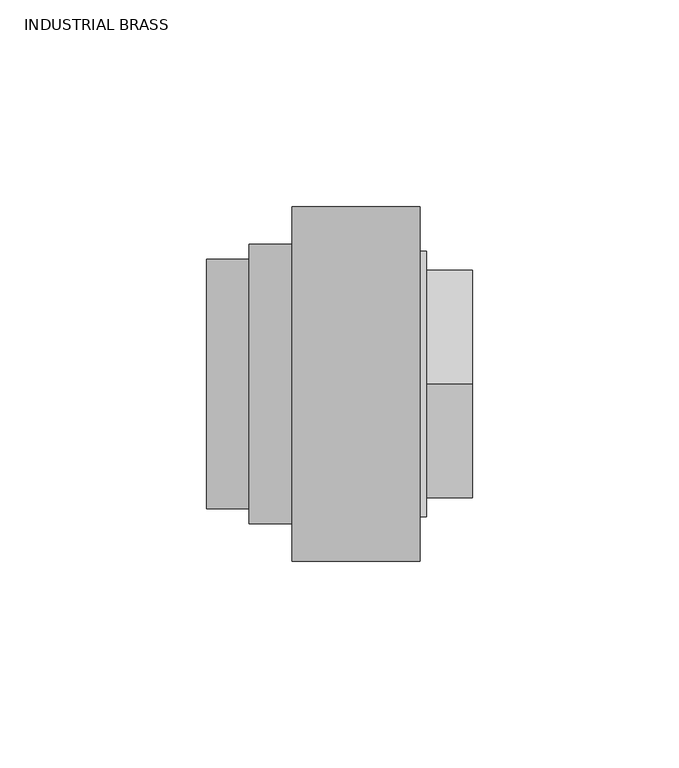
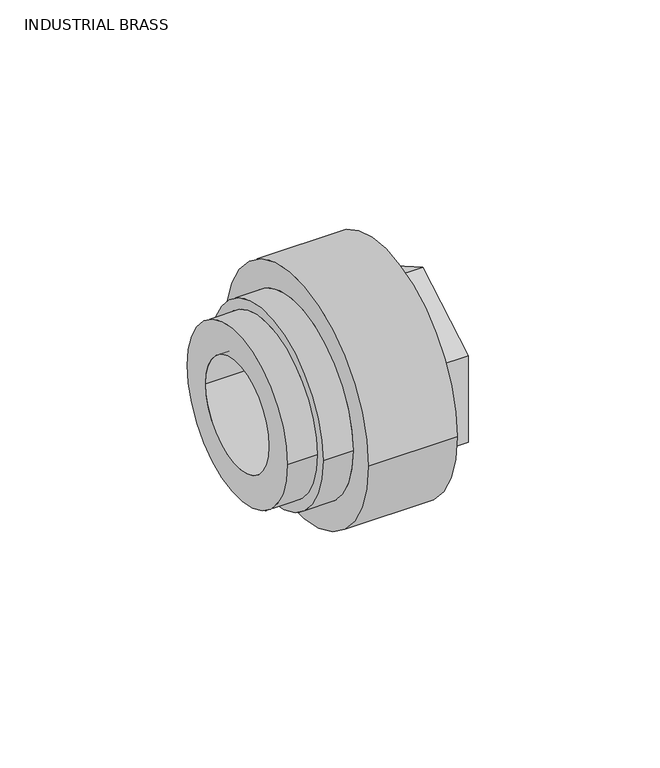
"""IFC4 building model written with IfcOpenShell, lengths in millimetres: pipe fitting geometry, Aquatherm - Flow Meter Well : INDUSTRIAL BRASS."""

from ifc_helpers import new_model, si_unit, frame, origin, place, context, project, spatial, polyline, circle_curve, source, transform, mapped, element, save
from ifc_brep_helpers import plane_surface, cylinder_surface, revolved_surface, advanced_brep


def industrial_brass_95618bbd(model_context):
    return source(origin(), model_context, "Body", "AdvancedBrep", [
        advanced_brep(
        [(31.877, 22.225, 0.0), (31.877, -22.225, 0.0), (51.5223125, -22.225, 0.0), (51.5223125, 22.225, 0.0), (31.877, 23.01875, 0.0), (31.877, -23.01875, 0.0), (28.702, 23.01875, 0.0), (28.702, -23.01875, 0.0), (28.702, 19.05, 0.0), (28.702, -19.05, 0.0), (25.527, 19.05, 0.0), (25.527, -19.05, 0.0), (25.527, 33.782, 0.0), (25.527, -33.782, 0.0), (41.402, 33.782, 0.0), (41.402, -33.782, 0.0), (54.102, 23.01875, 0.0), (54.102, -23.01875, 0.0), (54.102, -27.559, 0.0), (54.102, -27.559, -15.9111961), (54.102, 0.0, -31.8223921), (54.102, 27.559, -15.9111961), (54.102, 27.559, 0.0), (54.102, 27.559, 15.9111961), (54.102, 0.0, 31.8223921), (54.102, -27.559, 15.9111961), (41.402, 32.131, 0.0), (41.402, -32.131, 0.0), (42.9895, 32.131, 0.0), (42.9895, -32.131, 0.0), (42.9895, 0.0, -31.8223921), (42.9895, -27.559, -15.9111961), (42.9895, -27.559, 15.9111961), (42.9895, 0.0, 31.8223921), (42.9895, 27.559, 15.9111961), (42.9895, 27.559, -15.9111961)],
        [
            (0, 1, circle_curve(frame((31.877, 0.0, 0.0), z_axis=(-1.0, 0.0, 0.0), x_axis=(0.0, -1.0, 0.0)), 22.225)),
            (1, 2),
            (2, 3, circle_curve(frame((51.5223125, 0.0, 0.0), z_axis=(1.0, 0.0, 0.0), x_axis=(0.0, -1.0, 0.0)), 22.225)),
            (3, 0),
            (1, 0, circle_curve(frame((31.877, 0.0, 0.0), z_axis=(-1.0, 0.0, 0.0), x_axis=(0.0, -1.0, 0.0)), 22.225)),
            (3, 2, circle_curve(frame((51.5223125, 0.0, 0.0), z_axis=(1.0, 0.0, 0.0), x_axis=(0.0, -1.0, 0.0)), 22.225)),
            (0, 4),
            (4, 5, circle_curve(frame((31.877, 0.0, 0.0), z_axis=(-1.0, 0.0, 0.0), x_axis=(0.0, -1.0, 0.0)), 23.01875)),
            (5, 1),
            (5, 4, circle_curve(frame((31.877, 0.0, 0.0), z_axis=(-1.0, 0.0, 0.0), x_axis=(0.0, -1.0, 0.0)), 23.01875)),
            (4, 6),
            (6, 7, circle_curve(frame((28.702, 0.0, 0.0), z_axis=(-1.0, 0.0, 0.0), x_axis=(0.0, -1.0, 0.0)), 23.01875)),
            (7, 5),
            (7, 6, circle_curve(frame((28.702, 0.0, 0.0), z_axis=(-1.0, 0.0, 0.0), x_axis=(0.0, -1.0, 0.0)), 23.01875)),
            (6, 8),
            (8, 9, circle_curve(frame((28.702, 0.0, 0.0), z_axis=(-1.0, 0.0, 0.0), x_axis=(0.0, -1.0, 0.0)), 19.05)),
            (9, 7),
            (9, 8, circle_curve(frame((28.702, 0.0, 0.0), z_axis=(-1.0, 0.0, 0.0), x_axis=(0.0, -1.0, 0.0)), 19.05)),
            (8, 10),
            (10, 11, circle_curve(frame((25.527, 0.0, 0.0), z_axis=(-1.0, 0.0, 0.0), x_axis=(0.0, -1.0, 0.0)), 19.05)),
            (11, 9),
            (11, 10, circle_curve(frame((25.527, 0.0, 0.0), z_axis=(-1.0, 0.0, 0.0), x_axis=(0.0, -1.0, 0.0)), 19.05)),
            (10, 12),
            (12, 13, circle_curve(frame((25.527, 0.0, 0.0), z_axis=(-1.0, 0.0, 0.0), x_axis=(0.0, -1.0, 0.0)), 33.782)),
            (13, 11),
            (13, 12, circle_curve(frame((25.527, 0.0, 0.0), z_axis=(-1.0, 0.0, 0.0), x_axis=(0.0, -1.0, 0.0)), 33.782)),
            (12, 14),
            (14, 15, circle_curve(frame((41.402, 0.0, 0.0), z_axis=(-1.0, 0.0, 0.0), x_axis=(0.0, -1.0, 0.0)), 33.782)),
            (15, 13),
            (15, 14, circle_curve(frame((41.402, 0.0, 0.0), z_axis=(-1.0, 0.0, 0.0), x_axis=(0.0, -1.0, 0.0)), 33.782)),
            (16, 17, circle_curve(frame((54.102, 0.0, 0.0), z_axis=(-1.0, 0.0, 0.0), x_axis=(0.0, -1.0, 0.0)), 23.01875)),
            (17, 18),
            (18, 19),
            (19, 20),
            (20, 21),
            (21, 22),
            (22, 16),
            (17, 16, circle_curve(frame((54.102, 0.0, 0.0), z_axis=(-1.0, 0.0, 0.0), x_axis=(0.0, -1.0, 0.0)), 23.01875)),
            (22, 23),
            (23, 24),
            (24, 25),
            (25, 18),
            (2, 17),
            (16, 3),
            (14, 26),
            (26, 27, circle_curve(frame((41.402, 0.0, 0.0), z_axis=(-1.0, 0.0, 0.0), x_axis=(0.0, -1.0, 0.0)), 32.131)),
            (27, 15),
            (27, 26, circle_curve(frame((41.402, 0.0, 0.0), z_axis=(-1.0, 0.0, 0.0), x_axis=(0.0, -1.0, 0.0)), 32.131)),
            (26, 28),
            (28, 29, circle_curve(frame((42.9895, 0.0, 0.0), z_axis=(-1.0, 0.0, 0.0), x_axis=(0.0, -1.0, 0.0)), 32.131)),
            (29, 27),
            (29, 28, circle_curve(frame((42.9895, 0.0, 0.0), z_axis=(-1.0, 0.0, 0.0), x_axis=(0.0, -1.0, 0.0)), 32.131)),
            (30, 31),
            (31, 32),
            (32, 33),
            (33, 34),
            (34, 35),
            (35, 30),
            (35, 21),
            (20, 30),
            (34, 23),
            (33, 24),
            (32, 25),
            (31, 19),
        ],
        [
            revolved_surface(polyline([(51.5223125, -22.225, 0.0), (31.877, -22.225, 0.0)]), (55.9352251, 0.0, 0.0), (1.0, 0.0, 0.0)),
            plane_surface(frame((31.877, 0.0, 0.0), z_axis=(-1.0, 0.0, 0.0), x_axis=(0.0, -1.0, 0.0))),
            revolved_surface(polyline([(31.877, -23.01875, 0.0), (28.702, -23.01875, 0.0)]), (55.9352251, 0.0, 0.0), (1.0, 0.0, 0.0)),
            plane_surface(frame((28.702, 0.0, 0.0), z_axis=(1.0, 0.0, 0.0), x_axis=(0.0, -1.0, 0.0))),
            revolved_surface(polyline([(28.702, -19.05, 0.0), (25.527, -19.05, 0.0)]), (55.9352251, 0.0, 0.0), (1.0, 0.0, 0.0)),
            plane_surface(frame((25.527, 0.0, 0.0), z_axis=(-1.0, 0.0, 0.0), x_axis=(0.0, -1.0, 0.0))),
            cylinder_surface(frame((55.9352251, 0.0, 0.0), z_axis=(1.0, 0.0, 0.0), x_axis=(0.0, -1.0, 0.0)), 33.782),
            plane_surface(frame((54.102, 0.0, 0.0), z_axis=(1.0, 0.0, 0.0), x_axis=(0.0, -1.0, 0.0))),
            revolved_surface(polyline([(54.102, -23.01875, 0.0), (51.5223125, -22.225, 0.0)]), (55.9352251, 0.0, 0.0), (1.0, 0.0, 0.0)),
            plane_surface(frame((41.402, 0.0, 0.0), z_axis=(1.0, 0.0, 0.0), x_axis=(0.0, -1.0, 0.0))),
            cylinder_surface(frame((55.9352251, 0.0, 0.0), z_axis=(1.0, 0.0, 0.0), x_axis=(0.0, -1.0, 0.0)), 32.131),
            plane_surface(frame((42.9895, 27.559, -15.9111961), z_axis=(1.0, 0.0, 0.0), x_axis=(0.0, 0.8660254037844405, 0.4999999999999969))),
            plane_surface(frame((42.9895, 0.0, -31.8223921), z_axis=(0.0, 0.4999999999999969, -0.8660254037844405), x_axis=(1.0, 0.0, 0.0))),
            plane_surface(frame((42.9895, 27.559, -15.9111961), z_axis=(0.0, 1.0, 0.0), x_axis=(1.0, 0.0, 0.0))),
            plane_surface(frame((42.9895, 27.559, 15.9111961), z_axis=(0.0, 0.5000000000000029, 0.866025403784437), x_axis=(1.0, 0.0, 0.0))),
            plane_surface(frame((42.9895, 0.0, 31.8223921), z_axis=(0.0, -0.49999999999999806, 0.8660254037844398), x_axis=(1.0, 0.0, 0.0))),
            plane_surface(frame((42.9895, -27.559, 15.9111961), z_axis=(0.0, -1.0, 0.0), x_axis=(1.0, 0.0, 0.0))),
            plane_surface(frame((42.9895, -27.559, -15.9111961), z_axis=(0.0, -0.5000000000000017, -0.8660254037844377), x_axis=(1.0, 0.0, 0.0))),
        ],
        [
            (0, [[1, 2, 3, 4]]),
            (0, [[-2, 5, -4, 6]]),
            (1, [[-1, 7, 8, 9]]),
            (1, [[-5, -9, 10, -7]]),
            (2, [[-8, 11, 12, 13]]),
            (2, [[-10, -13, 14, -11]]),
            (3, [[-12, 15, 16, 17]]),
            (3, [[-14, -17, 18, -15]]),
            (4, [[-16, 19, 20, 21]]),
            (4, [[-18, -21, 22, -19]]),
            (5, [[-20, 23, 24, 25]]),
            (5, [[-22, -25, 26, -23]]),
            (6, [[-24, 27, 28, 29]]),
            (6, [[-26, -29, 30, -27]]),
            (7, [[31, 32, 33, 34, 35, 36, 37]]),
            (7, [[38, -37, 39, 40, 41, 42, -32]]),
            (8, [[-3, 43, -31, 44]]),
            (8, [[-6, -44, -38, -43]]),
            (9, [[-28, 45, 46, 47]]),
            (9, [[-30, -47, 48, -45]]),
            (10, [[-46, 49, 50, 51]]),
            (10, [[-48, -51, 52, -49]]),
            (11, [[-50, -52], [53, 54, 55, 56, 57, 58]]),
            (12, [[-58, 59, -35, 60]]),
            (13, [[-57, 61, -39, -36, -59]]),
            (14, [[-56, 62, -40, -61]]),
            (15, [[-55, 63, -41, -62]]),
            (16, [[-54, 64, -33, -42, -63]]),
            (17, [[-53, -60, -34, -64]]),
        ],
    ),
        advanced_brep(
        [(-10.2972973, 30.1625, 0.0), (-10.2972973, -30.1625, 0.0), (-10.2972973, 19.05, 0.0), (-10.2972973, -19.05, 0.0), (25.527, 33.782, 0.0), (25.527, -33.782, 0.0), (25.527, 19.05, 0.0), (25.527, -19.05, 0.0), (0.0, 30.1625, 0.0), (0.0, -30.1625, 0.0), (41.402, 42.926, 0.0), (41.402, -42.926, 0.0), (41.402, 33.782, 0.0), (41.402, -33.782, 0.0), (10.414, 42.926, 0.0), (10.414, -42.926, 0.0), (10.414, -33.782, 0.0), (10.414, 33.782, 0.0), (0.0, 33.782, 0.0), (0.0, -33.782, 0.0)],
        [
            (0, 1, circle_curve(frame((-10.2972973, 0.0, 0.0), z_axis=(-1.0, 0.0, 0.0), x_axis=(0.0, -1.0, 0.0)), 30.1625)),
            (1, 0, circle_curve(frame((-10.2972973, 0.0, 0.0), z_axis=(-1.0, 0.0, 0.0), x_axis=(0.0, -1.0, 0.0)), 30.1625)),
            (2, 3, circle_curve(frame((-10.2972973, 0.0, 0.0), z_axis=(1.0, 0.0, 0.0), x_axis=(0.0, -1.0, 0.0)), 19.05)),
            (3, 2, circle_curve(frame((-10.2972973, 0.0, 0.0), z_axis=(1.0, 0.0, 0.0), x_axis=(0.0, -1.0, 0.0)), 19.05)),
            (4, 5, circle_curve(frame((25.527, 0.0, 0.0), z_axis=(1.0, 0.0, 0.0), x_axis=(0.0, -1.0, 0.0)), 33.782)),
            (5, 4, circle_curve(frame((25.527, 0.0, 0.0), z_axis=(1.0, 0.0, 0.0), x_axis=(0.0, -1.0, 0.0)), 33.782)),
            (6, 7, circle_curve(frame((25.527, 0.0, 0.0), z_axis=(-1.0, 0.0, 0.0), x_axis=(0.0, -1.0, 0.0)), 19.05)),
            (7, 6, circle_curve(frame((25.527, 0.0, 0.0), z_axis=(-1.0, 0.0, 0.0), x_axis=(0.0, -1.0, 0.0)), 19.05)),
            (2, 6),
            (7, 3),
            (0, 8),
            (8, 9, circle_curve(frame((0.0, 0.0, 0.0), z_axis=(-1.0, 0.0, 0.0), x_axis=(0.0, -1.0, 0.0)), 30.1625)),
            (9, 1),
            (9, 8, circle_curve(frame((0.0, 0.0, 0.0), z_axis=(-1.0, 0.0, 0.0), x_axis=(0.0, -1.0, 0.0)), 30.1625)),
            (10, 11, circle_curve(frame((41.402, 0.0, 0.0), z_axis=(1.0, 0.0, 0.0), x_axis=(0.0, -1.0, 0.0)), 42.926)),
            (11, 10, circle_curve(frame((41.402, 0.0, 0.0), z_axis=(1.0, 0.0, 0.0), x_axis=(0.0, -1.0, 0.0)), 42.926)),
            (12, 13, circle_curve(frame((41.402, 0.0, 0.0), z_axis=(-1.0, 0.0, 0.0), x_axis=(0.0, -1.0, 0.0)), 33.782)),
            (13, 12, circle_curve(frame((41.402, 0.0, 0.0), z_axis=(-1.0, 0.0, 0.0), x_axis=(0.0, -1.0, 0.0)), 33.782)),
            (14, 15, circle_curve(frame((10.414, 0.0, 0.0), z_axis=(-1.0, 0.0, 0.0), x_axis=(0.0, -1.0, 0.0)), 42.926)),
            (15, 14, circle_curve(frame((10.414, 0.0, 0.0), z_axis=(-1.0, 0.0, 0.0), x_axis=(0.0, -1.0, 0.0)), 42.926)),
            (16, 17, circle_curve(frame((10.414, 0.0, 0.0), z_axis=(1.0, 0.0, 0.0), x_axis=(0.0, -1.0, 0.0)), 33.782)),
            (17, 16, circle_curve(frame((10.414, 0.0, 0.0), z_axis=(1.0, 0.0, 0.0), x_axis=(0.0, -1.0, 0.0)), 33.782)),
            (13, 5),
            (4, 12),
            (11, 15),
            (14, 10),
            (18, 19, circle_curve(frame((0.0, 0.0, 0.0), z_axis=(-1.0, 0.0, 0.0), x_axis=(0.0, -1.0, 0.0)), 33.782)),
            (19, 18, circle_curve(frame((0.0, 0.0, 0.0), z_axis=(-1.0, 0.0, 0.0), x_axis=(0.0, -1.0, 0.0)), 33.782)),
            (18, 17),
            (16, 19),
        ],
        [
            plane_surface(frame((-10.2972973, -19.05, 0.0), z_axis=(-1.0, 0.0, 0.0), x_axis=(0.0, 0.0, -1.0))),
            plane_surface(frame((25.527, -19.05, 0.0), z_axis=(1.0, 0.0, 0.0), x_axis=(0.0, 0.0, 1.0))),
            revolved_surface(polyline([(25.527, -19.05, 0.0), (-10.297297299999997, -19.05, 0.0)]), (25.527, 0.0, 0.0), (1.0, 0.0, 0.0)),
            cylinder_surface(frame((0.0, 0.0, 0.0), z_axis=(-1.0, 0.0, 0.0), x_axis=(0.0, -1.0, 0.0)), 30.1625),
            plane_surface(frame((41.402, -33.782, 0.0), z_axis=(1.0, 0.0, 0.0), x_axis=(0.0, 0.0, 1.0))),
            plane_surface(frame((10.414, -33.782, 0.0), z_axis=(-1.0, 0.0, 0.0), x_axis=(0.0, 0.0, -1.0))),
            revolved_surface(polyline([(41.402, -33.782, 0.0), (25.527, -33.782, 0.0)]), (41.402, 0.0, 0.0), (1.0, 0.0, 0.0)),
            cylinder_surface(frame((0.0, 0.0, 0.0), z_axis=(-1.0, 0.0, 0.0), x_axis=(0.0, -1.0, 0.0)), 42.926),
            plane_surface(frame((0.0, -30.1625, 0.0), z_axis=(-1.0, 0.0, 0.0), x_axis=(0.0, 0.0, -1.0))),
            cylinder_surface(frame((0.0, 0.0, 0.0), z_axis=(-1.0, 0.0, 0.0), x_axis=(0.0, -1.0, 0.0)), 33.782),
        ],
        [
            (0, [[1, 2], [3, 4]]),
            (1, [[5, 6], [7, 8]]),
            (2, [[-3, 9, -8, 10]]),
            (2, [[-4, -10, -7, -9]]),
            (3, [[-1, 11, 12, 13]]),
            (3, [[-2, -13, 14, -11]]),
            (4, [[15, 16], [17, 18]]),
            (5, [[19, 20], [21, 22]]),
            (6, [[-18, 23, -5, 24]]),
            (6, [[-17, -24, -6, -23]]),
            (7, [[-16, 25, -19, 26]]),
            (7, [[-15, -26, -20, -25]]),
            (8, [[27, 28], [-12, -14]]),
            (9, [[-27, 29, -21, 30]]),
            (9, [[-28, -30, -22, -29]]),
        ],
    ),
    ])


if __name__ == "__main__":
    model = new_model("IFC4")
    model_context = context("Model", 3, world=origin())
    ifc_project = project(units=[si_unit("LENGTHUNIT", "METRE", prefix="MILLI")], contexts=[model_context])
    site = spatial("IfcSite", under=ifc_project)
    building = spatial("IfcBuilding", under=site)
    placement = place(None, origin())
    industrial_brass_shape = industrial_brass_95618bbd(model_context)
    element("IfcPipeFitting", 1, ObjectType="Aquatherm - Flow Meter Well : INDUSTRIAL BRASS", at=placement, inside=building, context=model_context, shape_type="MappedRepresentation", body=[
        mapped(industrial_brass_shape, transform((0.0, 0.0, 0.0), x_axis=(1.0, 0.0, 0.0), y_axis=(0.0, 1.0, 0.0), z_axis=(0.0, 0.0, 1.0))),
    ])
    save(model, "model.ifc")
